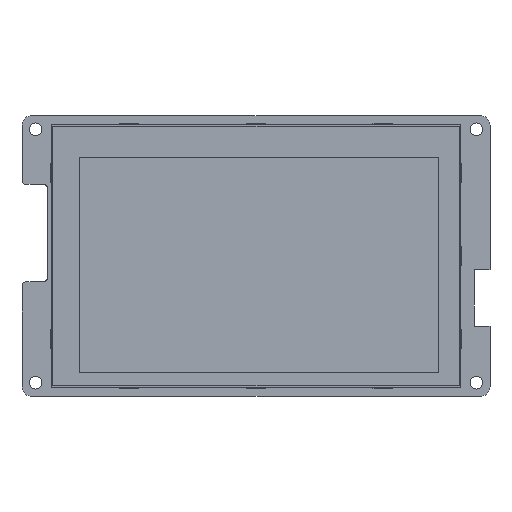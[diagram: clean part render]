
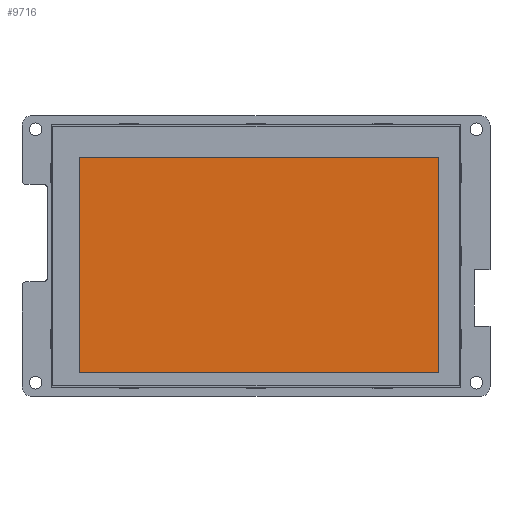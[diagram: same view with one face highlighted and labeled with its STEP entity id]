
A CAD part, front view. The second image highlights one B-rep face of the part: STEP entity #9716.
In plain terms, the highlighted planar face has unit normal (0, -1, 0).
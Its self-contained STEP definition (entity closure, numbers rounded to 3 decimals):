
#9507=DIRECTION('',(1.,0.,0.));
#9508=VECTOR('',#9507,93.6);
#9509=CARTESIAN_POINT('',(-46.08,0.1,-30.45));
#9510=LINE('',#9509,#9508);
#9511=DIRECTION('',(0.,0.,-1.));
#9512=VECTOR('',#9511,56.16);
#9513=CARTESIAN_POINT('',(-46.08,0.1,25.71));
#9514=LINE('',#9513,#9512);
#9515=DIRECTION('',(-1.,0.,0.));
#9516=VECTOR('',#9515,93.6);
#9517=CARTESIAN_POINT('',(47.52,0.1,25.71));
#9518=LINE('',#9517,#9516);
#9519=DIRECTION('',(0.,0.,1.));
#9520=VECTOR('',#9519,56.16);
#9521=CARTESIAN_POINT('',(47.52,0.1,-30.45));
#9522=LINE('',#9521,#9520);
#9539=CARTESIAN_POINT('',(-46.08,0.1,-30.45));
#9540=CARTESIAN_POINT('',(47.52,0.1,-30.45));
#9541=VERTEX_POINT('',#9539);
#9542=VERTEX_POINT('',#9540);
#9543=CARTESIAN_POINT('',(47.52,0.1,25.71));
#9544=VERTEX_POINT('',#9543);
#9545=CARTESIAN_POINT('',(-46.08,0.1,25.71));
#9546=VERTEX_POINT('',#9545);
#9705=CARTESIAN_POINT('',(0.,0.1,0.));
#9706=DIRECTION('',(0.,-1.,0.));
#9707=DIRECTION('',(-1.,0.,0.));
#9708=AXIS2_PLACEMENT_3D('',#9705,#9706,#9707);
#9709=PLANE('',#9708);
#9710=ORIENTED_EDGE('',*,*,#9657,.F.);
#9711=ORIENTED_EDGE('',*,*,#9672,.F.);
#9712=ORIENTED_EDGE('',*,*,#9686,.F.);
#9713=ORIENTED_EDGE('',*,*,#9699,.F.);
#9714=EDGE_LOOP('',(#9710,#9711,#9712,#9713));
#9715=FACE_OUTER_BOUND('',#9714,.F.);
#9657=EDGE_CURVE('',#9541,#9542,#9510,.T.);
#9672=EDGE_CURVE('',#9546,#9541,#9514,.T.);
#9686=EDGE_CURVE('',#9544,#9546,#9518,.T.);
#9699=EDGE_CURVE('',#9542,#9544,#9522,.T.);
#9716=ADVANCED_FACE('',(#9715),#9709,.T.);
